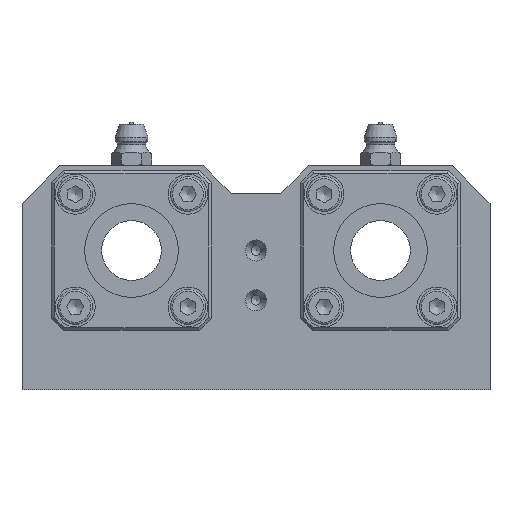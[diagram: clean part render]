
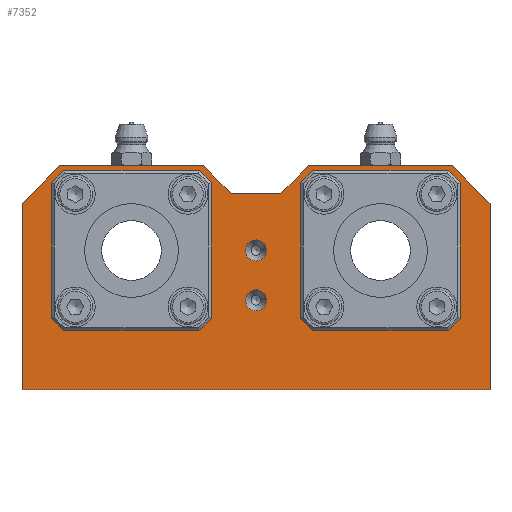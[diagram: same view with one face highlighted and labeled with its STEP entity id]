
A CAD part, left-side view. The second image highlights one B-rep face of the part: STEP entity #7352.
In plain terms, the highlighted planar face has unit normal (-1, 0, 0).
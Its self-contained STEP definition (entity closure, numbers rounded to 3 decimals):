
#6823=CARTESIAN_POINT('',(0.0,-47.0,0.0));
#6824=VERTEX_POINT('',#6823);
#6831=CARTESIAN_POINT('',(0.0,47.0,0.0));
#6832=VERTEX_POINT('',#6831);
#6833=CARTESIAN_POINT('',(0.0,47.0,0.0));
#6834=DIRECTION('',(0.0,-1.0,0.0));
#6835=VECTOR('',#6834,94.0);
#6836=LINE('',#6833,#6835);
#6837=EDGE_CURVE('',#6832,#6824,#6836,.T.);
#6892=CARTESIAN_POINT('',(0.0,-47.0,37.5));
#6893=VERTEX_POINT('',#6892);
#6900=CARTESIAN_POINT('',(0.0,-47.0,0.0));
#6901=DIRECTION('',(0.0,0.0,1.0));
#6902=VECTOR('',#6901,37.5);
#6903=LINE('',#6900,#6902);
#6904=EDGE_CURVE('',#6824,#6893,#6903,.T.);
#7133=CARTESIAN_POINT('',(0.0,10.5,45.0));
#7134=VERTEX_POINT('',#7133);
#7141=CARTESIAN_POINT('',(0.0,5.0,39.5));
#7142=VERTEX_POINT('',#7141);
#7143=CARTESIAN_POINT('',(0.0,10.5,45.0));
#7144=DIRECTION('',(0.0,-0.707,-0.707));
#7145=VECTOR('',#7144,7.778);
#7146=LINE('',#7143,#7145);
#7147=EDGE_CURVE('',#7134,#7142,#7146,.T.);
#7158=CARTESIAN_POINT('',(0.0,-47.0,0.0));
#7159=DIRECTION('',(-1.0,0.0,0.0));
#7160=DIRECTION('',(0.0,0.0,1.0));
#7161=AXIS2_PLACEMENT_3D('',#7158,#7159,#7160);
#7162=PLANE('',#7161);
#7163=ORIENTED_EDGE('',*,*,#7147,.F.);
#7164=CARTESIAN_POINT('',(0.0,39.5,45.0));
#7165=VERTEX_POINT('',#7164);
#7166=CARTESIAN_POINT('',(0.0,10.5,45.0));
#7167=DIRECTION('',(0.0,1.0,0.0));
#7168=VECTOR('',#7167,29.0);
#7169=LINE('',#7166,#7168);
#7170=EDGE_CURVE('',#7134,#7165,#7169,.T.);
#7171=ORIENTED_EDGE('',*,*,#7170,.T.);
#7172=CARTESIAN_POINT('',(0.0,47.0,37.5));
#7173=VERTEX_POINT('',#7172);
#7174=CARTESIAN_POINT('',(0.0,47.0,37.5));
#7175=DIRECTION('',(0.0,-0.707,0.707));
#7176=VECTOR('',#7175,10.607);
#7177=LINE('',#7174,#7176);
#7178=EDGE_CURVE('',#7173,#7165,#7177,.T.);
#7179=ORIENTED_EDGE('',*,*,#7178,.F.);
#7180=CARTESIAN_POINT('',(0.0,47.0,0.0));
#7181=DIRECTION('',(0.0,0.0,1.0));
#7182=VECTOR('',#7181,37.5);
#7183=LINE('',#7180,#7182);
#7184=EDGE_CURVE('',#6832,#7173,#7183,.T.);
#7185=ORIENTED_EDGE('',*,*,#7184,.F.);
#7186=ORIENTED_EDGE('',*,*,#6837,.T.);
#7187=ORIENTED_EDGE('',*,*,#6904,.T.);
#7188=CARTESIAN_POINT('',(0.0,-39.5,45.0));
#7189=VERTEX_POINT('',#7188);
#7190=CARTESIAN_POINT('',(0.0,-39.5,45.0));
#7191=DIRECTION('',(0.0,-0.707,-0.707));
#7192=VECTOR('',#7191,10.607);
#7193=LINE('',#7190,#7192);
#7194=EDGE_CURVE('',#7189,#6893,#7193,.T.);
#7195=ORIENTED_EDGE('',*,*,#7194,.F.);
#7196=CARTESIAN_POINT('',(0.0,-10.5,45.0));
#7197=VERTEX_POINT('',#7196);
#7198=CARTESIAN_POINT('',(0.0,-39.5,45.0));
#7199=DIRECTION('',(0.0,1.0,0.0));
#7200=VECTOR('',#7199,29.0);
#7201=LINE('',#7198,#7200);
#7202=EDGE_CURVE('',#7189,#7197,#7201,.T.);
#7203=ORIENTED_EDGE('',*,*,#7202,.T.);
#7204=CARTESIAN_POINT('',(0.0,-5.0,39.5));
#7205=VERTEX_POINT('',#7204);
#7206=CARTESIAN_POINT('',(0.0,-5.0,39.5));
#7207=DIRECTION('',(0.0,-0.707,0.707));
#7208=VECTOR('',#7207,7.778);
#7209=LINE('',#7206,#7208);
#7210=EDGE_CURVE('',#7205,#7197,#7209,.T.);
#7211=ORIENTED_EDGE('',*,*,#7210,.F.);
#7212=CARTESIAN_POINT('',(0.0,-5.0,39.5));
#7213=DIRECTION('',(0.0,1.0,0.0));
#7214=VECTOR('',#7213,10.0);
#7215=LINE('',#7212,#7214);
#7216=EDGE_CURVE('',#7205,#7142,#7215,.T.);
#7217=ORIENTED_EDGE('',*,*,#7216,.T.);
#7218=EDGE_LOOP('',(#7163,#7171,#7179,#7185,#7186,#7187,#7195,#7203,#7211,#7217));
#7219=FACE_OUTER_BOUND('',#7218,.T.);
#7220=CARTESIAN_POINT('',(0.0,13.686,37.314));
#7221=VERTEX_POINT('',#7220);
#7222=CARTESIAN_POINT('',(0.0,13.686,39.314));
#7223=DIRECTION('',(1.0,0.0,0.0));
#7224=DIRECTION('',(0.0,0.0,-1.0));
#7225=AXIS2_PLACEMENT_3D('',#7222,#7223,#7224);
#7226=CIRCLE('',#7225,2.0);
#7227=EDGE_CURVE('',#7221,#7221,#7226,.T.);
#7228=ORIENTED_EDGE('',*,*,#7227,.T.);
#7229=EDGE_LOOP('',(#7228));
#7230=FACE_BOUND('',#7229,.T.);
#7231=CARTESIAN_POINT('',(0.0,15.686,16.686));
#7232=VERTEX_POINT('',#7231);
#7233=CARTESIAN_POINT('',(0.0,13.686,16.686));
#7234=DIRECTION('',(1.0,0.0,0.0));
#7235=DIRECTION('',(0.0,1.0,0.0));
#7236=AXIS2_PLACEMENT_3D('',#7233,#7234,#7235);
#7237=CIRCLE('',#7236,2.0);
#7238=EDGE_CURVE('',#7232,#7232,#7237,.T.);
#7239=ORIENTED_EDGE('',*,*,#7238,.T.);
#7240=EDGE_LOOP('',(#7239));
#7241=FACE_BOUND('',#7240,.T.);
#7242=CARTESIAN_POINT('',(0.0,36.314,18.686));
#7243=VERTEX_POINT('',#7242);
#7244=CARTESIAN_POINT('',(0.0,36.314,16.686));
#7245=DIRECTION('',(1.0,0.0,0.0));
#7246=DIRECTION('',(0.0,0.0,1.0));
#7247=AXIS2_PLACEMENT_3D('',#7244,#7245,#7246);
#7248=CIRCLE('',#7247,2.0);
#7249=EDGE_CURVE('',#7243,#7243,#7248,.T.);
#7250=ORIENTED_EDGE('',*,*,#7249,.T.);
#7251=EDGE_LOOP('',(#7250));
#7252=FACE_BOUND('',#7251,.T.);
#7253=CARTESIAN_POINT('',(0.0,14.5,28.));
#7254=VERTEX_POINT('',#7253);
#7255=CARTESIAN_POINT('',(0.0,25.,28.));
#7256=DIRECTION('',(1.0,0.0,0.0));
#7257=DIRECTION('',(0.0,1.0,0.0));
#7258=AXIS2_PLACEMENT_3D('',#7255,#7256,#7257);
#7259=CIRCLE('',#7258,10.5);
#7260=EDGE_CURVE('',#7254,#7254,#7259,.T.);
#7261=ORIENTED_EDGE('',*,*,#7260,.T.);
#7262=EDGE_LOOP('',(#7261));
#7263=FACE_BOUND('',#7262,.T.);
#7264=CARTESIAN_POINT('',(0.0,34.314,39.314));
#7265=VERTEX_POINT('',#7264);
#7266=CARTESIAN_POINT('',(0.0,36.314,39.314));
#7267=DIRECTION('',(1.0,0.0,0.0));
#7268=DIRECTION('',(0.0,-1.0,0.0));
#7269=AXIS2_PLACEMENT_3D('',#7266,#7267,#7268);
#7270=CIRCLE('',#7269,2.0);
#7271=EDGE_CURVE('',#7265,#7265,#7270,.T.);
#7272=ORIENTED_EDGE('',*,*,#7271,.T.);
#7273=EDGE_LOOP('',(#7272));
#7274=FACE_BOUND('',#7273,.T.);
#7275=CARTESIAN_POINT('',(0.0,2.125,28.));
#7276=VERTEX_POINT('',#7275);
#7277=CARTESIAN_POINT('',(0.0,0.0,28.));
#7278=DIRECTION('',(1.0,0.0,0.0));
#7279=DIRECTION('',(0.0,1.0,0.0));
#7280=AXIS2_PLACEMENT_3D('',#7277,#7278,#7279);
#7281=CIRCLE('',#7280,2.125);
#7282=EDGE_CURVE('',#7276,#7276,#7281,.T.);
#7283=ORIENTED_EDGE('',*,*,#7282,.T.);
#7284=EDGE_LOOP('',(#7283));
#7285=FACE_BOUND('',#7284,.T.);
#7286=CARTESIAN_POINT('',(0.0,2.125,18.));
#7287=VERTEX_POINT('',#7286);
#7288=CARTESIAN_POINT('',(0.0,0.,18.));
#7289=DIRECTION('',(1.0,0.0,0.0));
#7290=DIRECTION('',(0.0,1.0,0.0));
#7291=AXIS2_PLACEMENT_3D('',#7288,#7289,#7290);
#7292=CIRCLE('',#7291,2.125);
#7293=EDGE_CURVE('',#7287,#7287,#7292,.T.);
#7294=ORIENTED_EDGE('',*,*,#7293,.T.);
#7295=EDGE_LOOP('',(#7294));
#7296=FACE_BOUND('',#7295,.T.);
#7297=CARTESIAN_POINT('',(0.0,-13.686,37.314));
#7298=VERTEX_POINT('',#7297);
#7299=CARTESIAN_POINT('',(0.0,-13.686,39.314));
#7300=DIRECTION('',(1.0,0.0,0.0));
#7301=DIRECTION('',(0.0,0.0,-1.0));
#7302=AXIS2_PLACEMENT_3D('',#7299,#7300,#7301);
#7303=CIRCLE('',#7302,2.0);
#7304=EDGE_CURVE('',#7298,#7298,#7303,.T.);
#7305=ORIENTED_EDGE('',*,*,#7304,.T.);
#7306=EDGE_LOOP('',(#7305));
#7307=FACE_BOUND('',#7306,.T.);
#7308=CARTESIAN_POINT('',(0.0,-15.686,16.686));
#7309=VERTEX_POINT('',#7308);
#7310=CARTESIAN_POINT('',(0.0,-13.686,16.686));
#7311=DIRECTION('',(1.0,0.0,0.0));
#7312=DIRECTION('',(0.0,-1.0,0.0));
#7313=AXIS2_PLACEMENT_3D('',#7310,#7311,#7312);
#7314=CIRCLE('',#7313,2.0);
#7315=EDGE_CURVE('',#7309,#7309,#7314,.T.);
#7316=ORIENTED_EDGE('',*,*,#7315,.T.);
#7317=EDGE_LOOP('',(#7316));
#7318=FACE_BOUND('',#7317,.T.);
#7319=CARTESIAN_POINT('',(0.0,-36.314,18.686));
#7320=VERTEX_POINT('',#7319);
#7321=CARTESIAN_POINT('',(0.0,-36.314,16.686));
#7322=DIRECTION('',(1.0,0.0,0.0));
#7323=DIRECTION('',(0.0,0.0,1.0));
#7324=AXIS2_PLACEMENT_3D('',#7321,#7322,#7323);
#7325=CIRCLE('',#7324,2.0);
#7326=EDGE_CURVE('',#7320,#7320,#7325,.T.);
#7327=ORIENTED_EDGE('',*,*,#7326,.T.);
#7328=EDGE_LOOP('',(#7327));
#7329=FACE_BOUND('',#7328,.T.);
#7330=CARTESIAN_POINT('',(0.0,-34.314,39.314));
#7331=VERTEX_POINT('',#7330);
#7332=CARTESIAN_POINT('',(0.0,-36.314,39.314));
#7333=DIRECTION('',(1.0,0.0,0.0));
#7334=DIRECTION('',(0.0,1.0,0.0));
#7335=AXIS2_PLACEMENT_3D('',#7332,#7333,#7334);
#7336=CIRCLE('',#7335,2.0);
#7337=EDGE_CURVE('',#7331,#7331,#7336,.T.);
#7338=ORIENTED_EDGE('',*,*,#7337,.T.);
#7339=EDGE_LOOP('',(#7338));
#7340=FACE_BOUND('',#7339,.T.);
#7341=CARTESIAN_POINT('',(0.0,-14.5,28.));
#7342=VERTEX_POINT('',#7341);
#7343=CARTESIAN_POINT('',(0.0,-25.,28.));
#7344=DIRECTION('',(1.0,0.0,0.0));
#7345=DIRECTION('',(0.0,-1.0,0.0));
#7346=AXIS2_PLACEMENT_3D('',#7343,#7344,#7345);
#7347=CIRCLE('',#7346,10.5);
#7348=EDGE_CURVE('',#7342,#7342,#7347,.T.);
#7349=ORIENTED_EDGE('',*,*,#7348,.T.);
#7350=EDGE_LOOP('',(#7349));
#7351=FACE_BOUND('',#7350,.T.);
#7352=ADVANCED_FACE('',(#7219,#7230,#7241,#7252,#7263,#7274,#7285,#7296,#7307,#7318,#7329,#7340,#7351),#7162,.T.);
